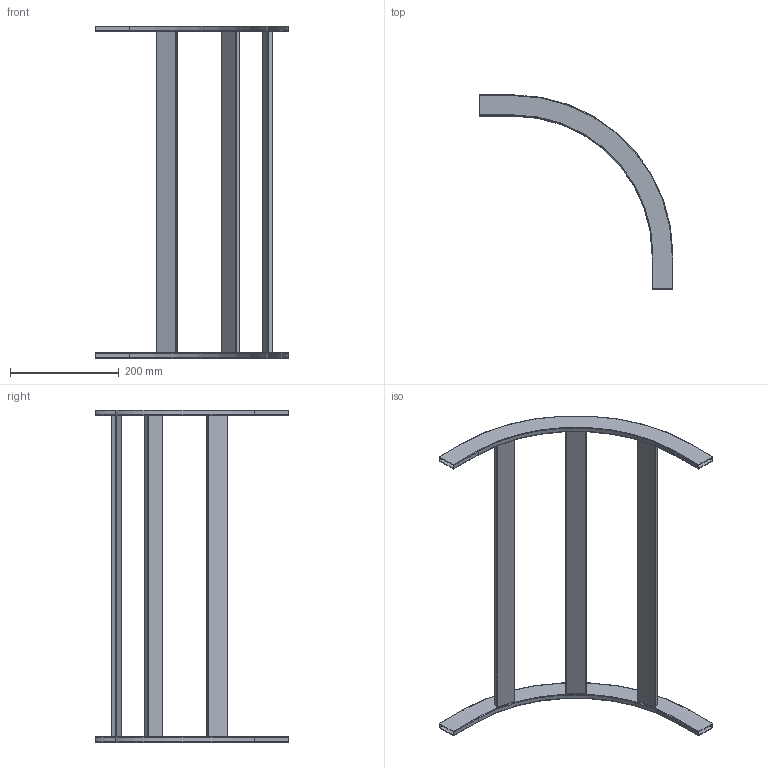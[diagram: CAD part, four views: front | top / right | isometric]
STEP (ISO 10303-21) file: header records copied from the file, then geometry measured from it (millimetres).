
FILE_DESCRIPTION (( 'STEP AP203' ), '1' );
FILE_NAME ('lib24w.STEP', '2015-05-21T15:03:44', ( '' ), ( '' ), 'SwSTEP 2.0', 'SolidWorks 2010', '' );
FILE_SCHEMA (( 'CONFIG_CONTROL_DESIGN' ));
Length unit declared in the file: inch
Products named in the file (1): lib24w
Bounding box: 355.6 x 355.6 x 609.6 mm (x, y, z)
Volume: 788331.8 mm3; surface area: 362335.8 mm2
Topology: 1 solids, 1 shells, 87 faces, 233 edges, 150 vertices
Faces by surface type: plane 40, cylinder 39, torus 8
Entity records: 2820 total; most frequent: DIRECTION 495, CARTESIAN_POINT 471, ORIENTED_EDGE 466, EDGE_CURVE 233, AXIS2_PLACEMENT_3D 174, VERTEX_POINT 150, LINE 147, VECTOR 147
